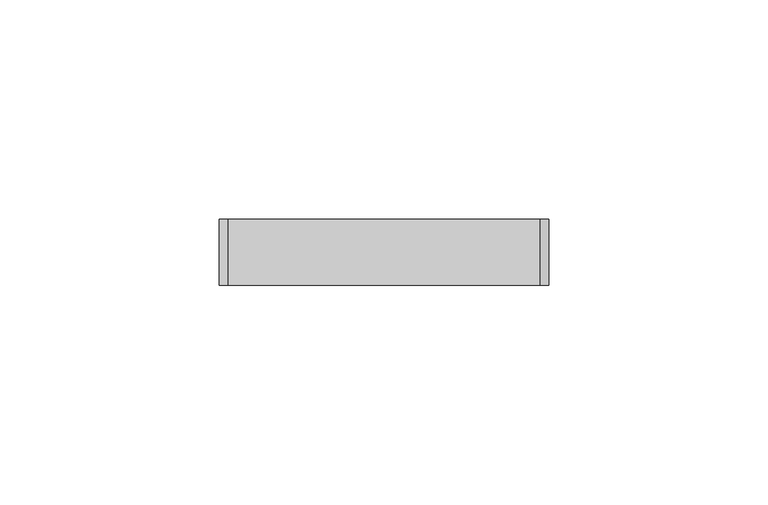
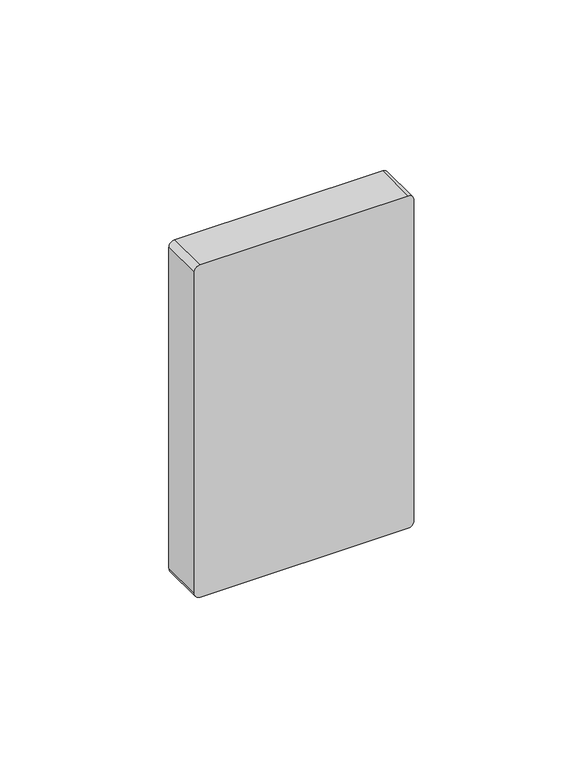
"""IFC4 building model written with IfcOpenShell, lengths in millimetres: proxy geometry, VOICE DATA OUTLET : VOICE DATA OUTLET - DOUBLE RJ45."""

from ifc_helpers import new_model, si_unit, frame, origin, place, context, project, spatial, circle_curve, source, transform, mapped, element, save
from ifc_brep_helpers import plane_surface, cylinder_surface, advanced_brep


def electrical_fixtures_40b54173(model_context):
    return source(origin(), model_context, "Body", "AdvancedBrep", [
        advanced_brep(
        [(-35.5, 15.0, 60.0), (35.5, 15.0, 60.0), (37.5, 15.0, 58.0), (37.5, 15.0, -58.0), (35.5, 15.0, -60.0), (-35.5, 15.0, -60.0), (-37.5, 15.0, -58.0), (-37.5, 15.0, 58.0), (-10.0, 15.0, 15.0), (10.0, 15.0, 15.0), (10.0, 15.0, 25.0), (-10.0, 15.0, 25.0), (-10.0, 15.0, -15.0), (-10.0, 15.0, -25.0), (10.0, 15.0, -25.0), (10.0, 15.0, -15.0), (-35.5, 0.0, 60.0), (-37.5, 0.0, 58.0), (-37.5, 0.0, -58.0), (-35.5, 0.0, -60.0), (35.5, 0.0, -60.0), (37.5, 0.0, -58.0), (37.5, 0.0, 58.0), (35.5, 0.0, 60.0), (-10.0, 10.7442982, 25.0), (10.0, 10.7442982, 25.0), (10.0, 10.7442982, 15.0), (-10.0, 10.7442982, 15.0), (10.0, 10.7442982, -15.0), (10.0, 10.7442982, -25.0), (-10.0, 10.7442982, -25.0), (-10.0, 10.7442982, -15.0)],
        [
            (0, 1),
            (1, 2, circle_curve(frame((35.5, 15.0, 58.0), z_axis=(0.0, 1.0, 0.0), x_axis=(0.0, 0.0, -1.0)), 2.0)),
            (2, 3),
            (3, 4, circle_curve(frame((35.5, 15.0, -58.0), z_axis=(0.0, 1.0, 0.0), x_axis=(0.0, 0.0, -1.0)), 2.0)),
            (4, 5),
            (5, 6, circle_curve(frame((-35.5, 15.0, -58.0), z_axis=(0.0, 1.0, 0.0), x_axis=(0.0, 0.0, -1.0)), 2.0)),
            (6, 7),
            (7, 0, circle_curve(frame((-35.5, 15.0, 58.0), z_axis=(0.0, 1.0, 0.0), x_axis=(0.0, 0.0, -1.0)), 2.0)),
            (8, 9),
            (9, 10),
            (10, 11),
            (11, 8),
            (12, 13),
            (13, 14),
            (14, 15),
            (15, 12),
            (16, 17, circle_curve(frame((-35.5, 0.0, 58.0), z_axis=(0.0, -1.0, 0.0), x_axis=(0.0, 0.0, -1.0)), 2.0)),
            (17, 18),
            (18, 19, circle_curve(frame((-35.5, 0.0, -58.0), z_axis=(0.0, -1.0, 0.0), x_axis=(0.0, 0.0, -1.0)), 2.0)),
            (19, 20),
            (20, 21, circle_curve(frame((35.5, 0.0, -58.0), z_axis=(0.0, -1.0, 0.0), x_axis=(0.0, 0.0, -1.0)), 2.0)),
            (21, 22),
            (22, 23, circle_curve(frame((35.5, 0.0, 58.0), z_axis=(0.0, -1.0, 0.0), x_axis=(0.0, 0.0, -1.0)), 2.0)),
            (23, 16),
            (6, 18),
            (17, 7),
            (4, 20),
            (19, 5),
            (2, 22),
            (21, 3),
            (0, 16),
            (23, 1),
            (24, 25),
            (25, 26),
            (26, 27),
            (27, 24),
            (28, 29),
            (29, 30),
            (30, 31),
            (31, 28),
            (27, 8),
            (11, 24),
            (26, 9),
            (25, 10),
            (31, 12),
            (15, 28),
            (30, 13),
            (29, 14),
        ],
        [
            plane_surface(frame((52.5, 15.0, 60.0), z_axis=(0.0, 1.0, 0.0), x_axis=(-1.0, 0.0, 0.0))),
            plane_surface(frame((52.5, 0.0, 60.0), z_axis=(0.0, -1.0, 0.0), x_axis=(1.0, 0.0, 0.0))),
            plane_surface(frame((-37.5, 0.0, -58.0), z_axis=(-1.0, 0.0, 0.0), x_axis=(0.0, 1.0, 0.0))),
            plane_surface(frame((35.5, 0.0, -60.0), z_axis=(0.0, 0.0, -1.0), x_axis=(0.0, 1.0, 0.0))),
            plane_surface(frame((37.5, 0.0, 58.0), z_axis=(1.0, 0.0, 0.0), x_axis=(0.0, 1.0, 0.0))),
            plane_surface(frame((-35.5, 0.0, 60.0), z_axis=(0.0, 0.0, 1.0), x_axis=(0.0, 1.0, 0.0))),
            cylinder_surface(frame((-35.5, 15.0, 58.0), z_axis=(0.0, -1.0, 0.0), x_axis=(0.0, 0.0, -1.0)), 2.0),
            cylinder_surface(frame((-35.5, 15.0, -58.0), z_axis=(0.0, -1.0, 0.0), x_axis=(0.0, 0.0, -1.0)), 2.0),
            cylinder_surface(frame((35.5, 15.0, -58.0), z_axis=(0.0, -1.0, 0.0), x_axis=(0.0, 0.0, -1.0)), 2.0),
            cylinder_surface(frame((35.5, 15.0, 58.0), z_axis=(0.0, -1.0, 0.0), x_axis=(0.0, 0.0, -1.0)), 2.0),
            plane_surface(frame((-10.0, 10.7442982, 25.0), z_axis=(0.0, 1.0, 0.0), x_axis=(0.0, 0.0, 1.0))),
            plane_surface(frame((-10.0, 15.0, 25.0), z_axis=(1.0, 0.0, 0.0), x_axis=(0.0, -1.0, 0.0))),
            plane_surface(frame((-10.0, 15.0, 15.0), z_axis=(0.0, 0.0, 1.0), x_axis=(0.0, -1.0, 0.0))),
            plane_surface(frame((10.0, 15.0, 15.0), z_axis=(-1.0, 0.0, 0.0), x_axis=(0.0, -1.0, 0.0))),
            plane_surface(frame((10.0, 15.0, 25.0), z_axis=(0.0, 0.0, -1.0), x_axis=(0.0, -1.0, 0.0))),
            plane_surface(frame((10.0, 15.0, -15.0), z_axis=(0.0, 0.0, -1.0), x_axis=(0.0, -1.0, 0.0))),
            plane_surface(frame((-10.0, 15.0, -15.0), z_axis=(1.0, 0.0, 0.0), x_axis=(0.0, -1.0, 0.0))),
            plane_surface(frame((-10.0, 15.0, -25.0), z_axis=(0.0, 0.0, 1.0), x_axis=(0.0, -1.0, 0.0))),
            plane_surface(frame((10.0, 15.0, -25.0), z_axis=(-1.0, 0.0, 0.0), x_axis=(0.0, -1.0, 0.0))),
        ],
        [
            (0, [[1, 2, 3, 4, 5, 6, 7, 8], [9, 10, 11, 12], [13, 14, 15, 16]]),
            (1, [[17, 18, 19, 20, 21, 22, 23, 24]]),
            (2, [[25, -18, 26, -7]]),
            (3, [[27, -20, 28, -5]]),
            (4, [[29, -22, 30, -3]]),
            (5, [[31, -24, 32, -1]]),
            (6, [[-26, -17, -31, -8]]),
            (7, [[-28, -19, -25, -6]]),
            (8, [[-30, -21, -27, -4]]),
            (9, [[-32, -23, -29, -2]]),
            (10, [[33, 34, 35, 36]]),
            (10, [[37, 38, 39, 40]]),
            (11, [[41, -12, 42, -36]]),
            (12, [[43, -9, -41, -35]]),
            (13, [[44, -10, -43, -34]]),
            (14, [[-42, -11, -44, -33]]),
            (15, [[45, -16, 46, -40]]),
            (16, [[47, -13, -45, -39]]),
            (17, [[48, -14, -47, -38]]),
            (18, [[-46, -15, -48, -37]]),
        ],
    ),
    ])


if __name__ == "__main__":
    model = new_model("IFC4")
    model_context = context("Model", 3, world=origin())
    ifc_project = project(units=[si_unit("LENGTHUNIT", "METRE", prefix="MILLI")], contexts=[model_context])
    site = spatial("IfcSite", under=ifc_project)
    building = spatial("IfcBuilding", under=site)
    placement = place(None, origin())
    electrical_fixtures_shape = electrical_fixtures_40b54173(model_context)
    element("IfcBuildingElementProxy", 1, Name="VOICE DATA OUTLET : VOICE DATA OUTLET - DOUBLE RJ45", ObjectType="VOICE DATA OUTLET : VOICE DATA OUTLET - DOUBLE RJ45", at=placement, inside=building, context=model_context, shape_type="MappedRepresentation", body=[
        mapped(electrical_fixtures_shape, transform((0.0, 0.0, 0.0), x_axis=(1.0, 0.0, 0.0), y_axis=(0.0, 1.0, 0.0), z_axis=(0.0, 0.0, 1.0))),
    ])
    save(model, "model.ifc")
